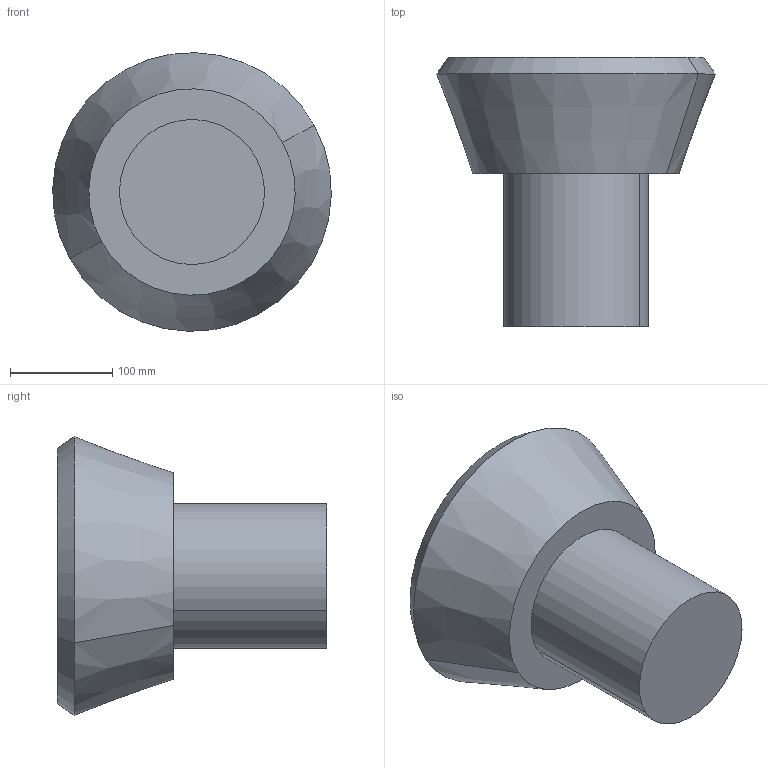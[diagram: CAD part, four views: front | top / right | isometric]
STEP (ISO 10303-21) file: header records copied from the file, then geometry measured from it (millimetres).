
FILE_DESCRIPTION(('CATIA V5 STEP Exchange'),'2;1');
FILE_NAME('C:\_Andres\UNIVERSIDAD\IQS\ASIGNATURAS\DAO\EXF\EXF-15161c\1original\Gual_Moseguí_Ej09-optimiza_v11.stp','2016-03-04T21:55:28+00:00',('none'),('none'),'CATIA Version 5 Release 20 SP 1 (IN-10)','CATIA V5 STEP AP203','none');
FILE_SCHEMA(('CONFIG_CONTROL_DESIGN'));
Length unit declared in the file: millimetre
Products named in the file (1): Gual_Moseguí_Ej09-optimiza_v11
Bounding box: 272.77 x 263.7 x 272.77 mm (x, y, z)
Volume: 7576770.1 mm3; surface area: 246079.7 mm2
Topology: 1 solids, 2 shells, 13 faces, 22 edges, 14 vertices
Faces by surface type: plane 5, cylinder 4, cone 4
Entity records: 324 total; most frequent: CARTESIAN_POINT 47, ORIENTED_EDGE 44, DIRECTION 42, AXIS2_PLACEMENT_3D 25, EDGE_CURVE 22, CIRCLE 14, EDGE_LOOP 14, VERTEX_POINT 14
